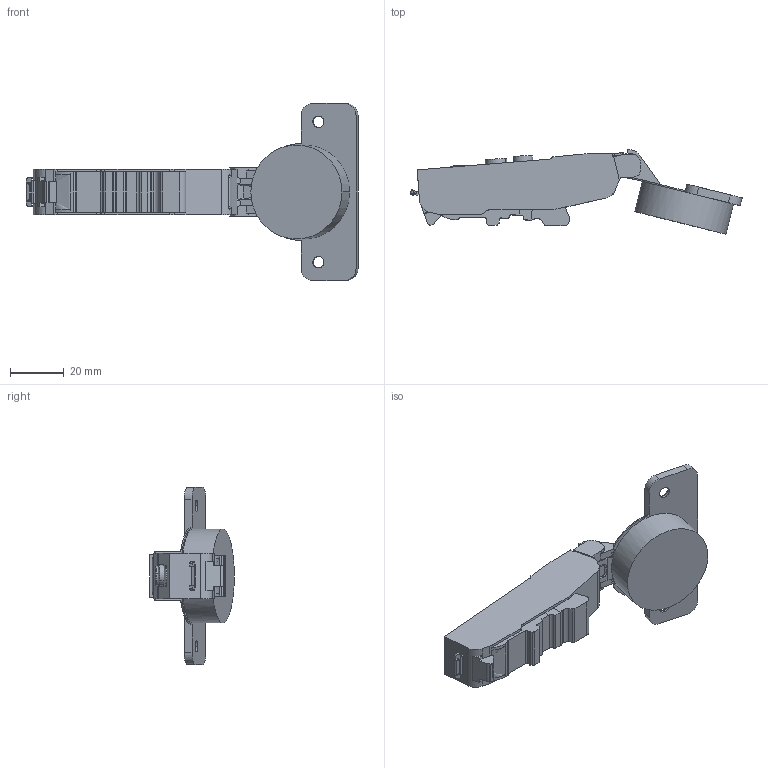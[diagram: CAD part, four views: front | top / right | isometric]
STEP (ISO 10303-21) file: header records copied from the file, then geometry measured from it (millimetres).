
FILE_DESCRIPTION (( 'STEP AP203' ), '1' );
FILE_NAME ('C81B876FAB DTC 3D OPEN.STEP', '2024-07-18T05:55:11', ( '微软用户' ), ( '微软中国' ), 'SwSTEP 2.0', 'SolidWorks 2021', '' );
FILE_SCHEMA (( 'CONFIG_CONTROL_DESIGN' ));
Length unit declared in the file: millimetre
Products named in the file (1): C81B876FAB DTC 3D OPEN
Bounding box: 122.99 x 31.32 x 65.6 mm (x, y, z)
Volume: 41730.6 mm3; surface area: 12533.9 mm2
Topology: 1 solids, 1 shells, 324 faces, 930 edges, 610 vertices
Faces by surface type: cylinder 138, plane 135, torus 26, bspline 19, cone 6
Entity records: 11473 total; most frequent: CARTESIAN_POINT 2996, ORIENTED_EDGE 1860, DIRECTION 1700, EDGE_CURVE 930, VERTEX_POINT 610, AXIS2_PLACEMENT_3D 608, LINE 484, VECTOR 484
